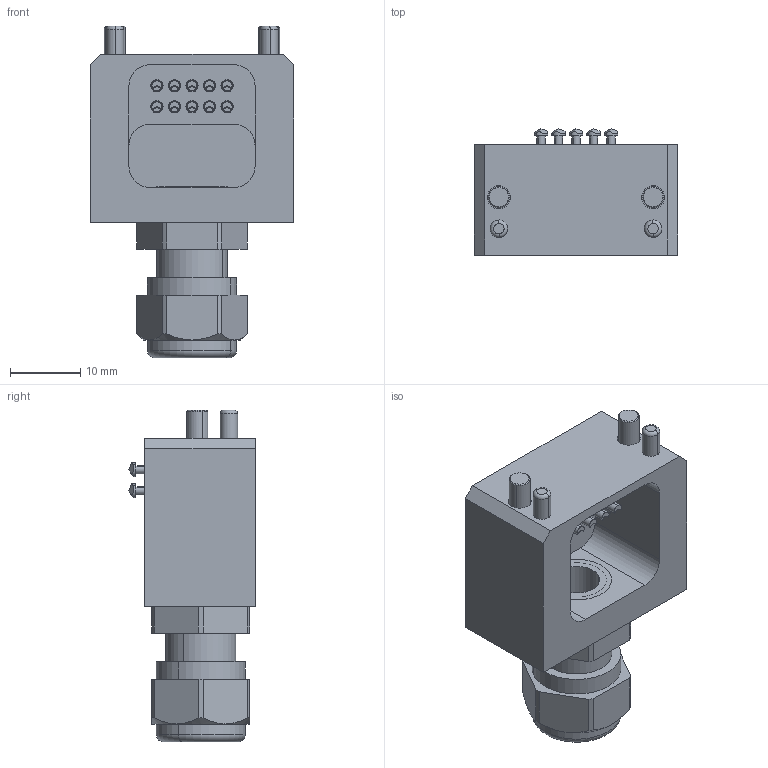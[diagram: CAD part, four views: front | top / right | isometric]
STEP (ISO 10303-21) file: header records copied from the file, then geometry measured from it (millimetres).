
FILE_DESCRIPTION (( 'STEP AP203' ), '1' );
FILE_NAME ('1507-C72A REV02.STEP', '2019-07-23T19:58:01', ( '' ), ( '' ), 'SwSTEP 2.0', 'SolidWorks 2019', '' );
FILE_SCHEMA (( 'CONFIG_CONTROL_DESIGN' ));
Length unit declared in the file: inch
Products named in the file (7): 1601-P20N; 1507-C72A REV02; 49405; 96504-P1023; 1507-C75N; 48328; 96504-P1022
Assembly tree (26 placements, depth 2):
  1507-C72A REV02
    1507-C75N
    1601-P20N
    96504-P1022  x10
    96504-P1023  x10
    48328  x2
    49405  x2
Bounding box: 29 x 18.04 x 47.3 mm (x, y, z)
Volume: 9424.6 mm3; surface area: 8818.6 mm2
Topology: 26 solids, 26 shells, 487 faces, 1083 edges, 714 vertices
Faces by surface type: cylinder 224, plane 197, torus 46, cone 18, bspline 2
Entity records: 6936 total; most frequent: CARTESIAN_POINT 1127, DIRECTION 1028, ORIENTED_EDGE 874, EDGE_CURVE 437, AXIS2_PLACEMENT_3D 405, VERTEX_POINT 286, EDGE_LOOP 229, LINE 218
